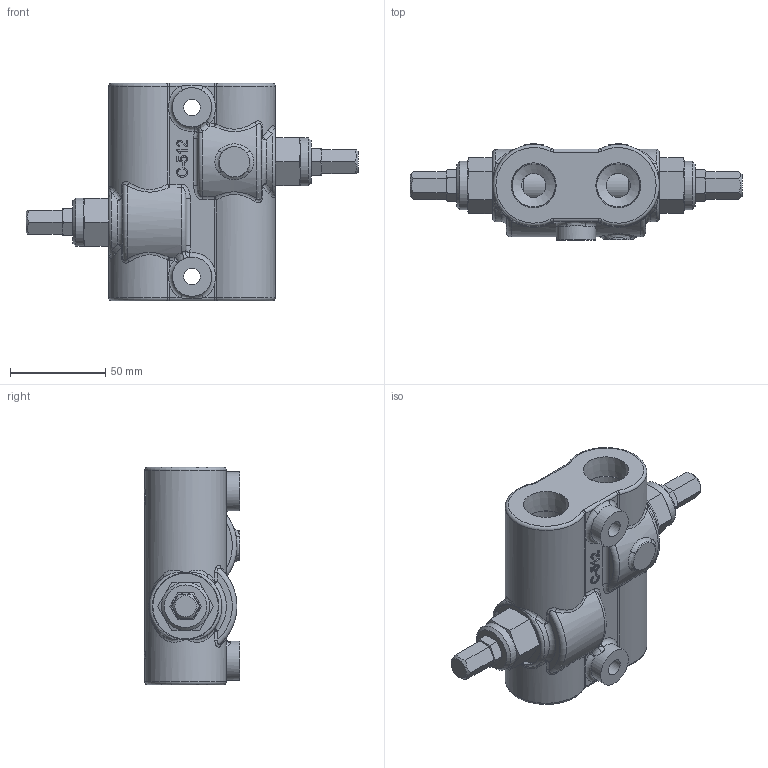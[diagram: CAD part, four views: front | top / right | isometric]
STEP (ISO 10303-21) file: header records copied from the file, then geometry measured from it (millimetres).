
FILE_DESCRIPTION((''),'2;1');
FILE_NAME('C:\Vault\Workspace\z_ShellModels\Misc_RD_RV\DRV-2HH_Shell.stp','2012-03-19T13:42:24',('PetersW'),(''),'Autodesk Inventor 2012','Autodesk Inventor 2012','');
FILE_SCHEMA(('AUTOMOTIVE_DESIGN { 1 0 10303 214 1 1 1 1 }'));
Length unit declared in the file: inch
Products named in the file (1): Part3
Bounding box: 174.35 x 50.39 x 114.3 mm (x, y, z)
Volume: 352050.8 mm3; surface area: 58716 mm2
Topology: 1 solids, 5 shells, 439 faces, 1069 edges, 648 vertices
Faces by surface type: plane 144, bspline 119, cone 80, cylinder 70, torus 26
Full cylindrical faces by diameter (mm): 8.382 x4, 8.712 x2, 12.7 x4, 17.399 x2, 19.685 x2, 20.625 x2, 22.631 x4, 25.4 x2, 34.392 x2
Entity records: 23331 total; most frequent: CARTESIAN_POINT 14053, ORIENTED_EDGE 1954, DIRECTION 1515, EDGE_CURVE 977, VERTEX_POINT 620, AXIS2_PLACEMENT_3D 611, EDGE_LOOP 527, STYLED_ITEM 440
